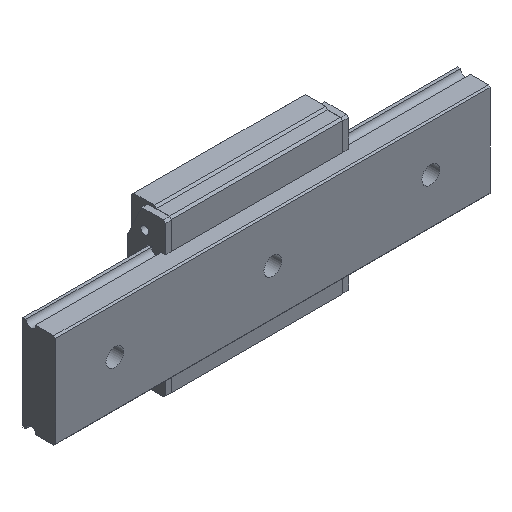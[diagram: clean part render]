
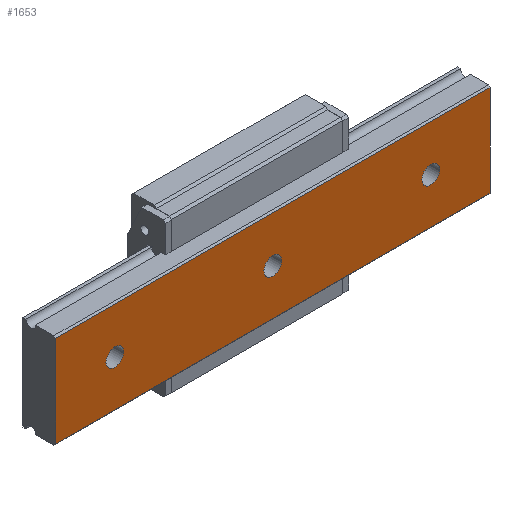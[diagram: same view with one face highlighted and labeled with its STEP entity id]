
A CAD part, isometric view. The second image highlights one B-rep face of the part: STEP entity #1653.
In plain terms, the highlighted planar face has unit normal (0, -1, 0).
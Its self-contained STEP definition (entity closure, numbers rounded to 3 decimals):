
#70=PLANE('',#1799);
#148=LINE('',#2491,#308);
#149=LINE('',#2499,#309);
#150=LINE('',#2501,#310);
#151=LINE('',#2503,#311);
#308=VECTOR('',#2001,1000.);
#309=VECTOR('',#2010,1000.);
#310=VECTOR('',#2011,1000.);
#311=VECTOR('',#2012,1000.);
#484=ORIENTED_EDGE('',*,*,#908,.F.);
#485=ORIENTED_EDGE('',*,*,#909,.F.);
#486=ORIENTED_EDGE('',*,*,#910,.F.);
#487=ORIENTED_EDGE('',*,*,#911,.T.);
#488=ORIENTED_EDGE('',*,*,#907,.F.);
#489=ORIENTED_EDGE('',*,*,#912,.F.);
#490=ORIENTED_EDGE('',*,*,#913,.T.);
#907=EDGE_CURVE('',#1115,#1114,#148,.T.);
#908=EDGE_CURVE('',#1116,#1116,#1266,.T.);
#909=EDGE_CURVE('',#1117,#1117,#1267,.T.);
#910=EDGE_CURVE('',#1118,#1118,#1268,.T.);
#911=EDGE_CURVE('',#1119,#1114,#149,.T.);
#912=EDGE_CURVE('',#1120,#1115,#150,.T.);
#913=EDGE_CURVE('',#1120,#1119,#151,.T.);
#1114=VERTEX_POINT('',#2488);
#1115=VERTEX_POINT('',#2490);
#1116=VERTEX_POINT('',#2494);
#1117=VERTEX_POINT('',#2496);
#1118=VERTEX_POINT('',#2498);
#1119=VERTEX_POINT('',#2500);
#1120=VERTEX_POINT('',#2502);
#1266=CIRCLE('',#1800,2.25);
#1267=CIRCLE('',#1801,2.25);
#1268=CIRCLE('',#1802,2.25);
#1327=EDGE_LOOP('',(#484));
#1328=EDGE_LOOP('',(#485));
#1329=EDGE_LOOP('',(#486));
#1330=EDGE_LOOP('',(#487,#488,#489,#490));
#1475=FACE_BOUND('',#1327,.T.);
#1476=FACE_BOUND('',#1328,.T.);
#1477=FACE_BOUND('',#1329,.T.);
#1478=FACE_BOUND('',#1330,.T.);
#1653=ADVANCED_FACE('',(#1475,#1476,#1477,#1478),#70,.F.);
#1799=AXIS2_PLACEMENT_3D('',#2492,#2002,#2003);
#1800=AXIS2_PLACEMENT_3D('',#2493,#2004,#2005);
#1801=AXIS2_PLACEMENT_3D('',#2495,#2006,#2007);
#1802=AXIS2_PLACEMENT_3D('',#2497,#2008,#2009);
#2001=DIRECTION('',(-1.,0.,0.));
#2002=DIRECTION('',(0.,1.,0.));
#2003=DIRECTION('',(0.,0.,1.));
#2004=DIRECTION('',(0.,-1.,0.));
#2005=DIRECTION('',(0.,0.,-1.));
#2006=DIRECTION('',(0.,-1.,0.));
#2007=DIRECTION('',(0.,0.,-1.));
#2008=DIRECTION('',(0.,-1.,0.));
#2009=DIRECTION('',(0.,0.,-1.));
#2010=DIRECTION('',(0.,0.,-1.));
#2011=DIRECTION('',(0.,0.,-1.));
#2012=DIRECTION('',(-1.,0.,0.));
#2488=CARTESIAN_POINT('',(0.,0.,-11.6));
#2490=CARTESIAN_POINT('',(110.,0.,-11.6));
#2491=CARTESIAN_POINT('',(110.,0.,-11.6));
#2492=CARTESIAN_POINT('',(110.,0.,11.6));
#2493=CARTESIAN_POINT('',(55.,0.,0.));
#2494=CARTESIAN_POINT('',(55.,0.,-2.25));
#2495=CARTESIAN_POINT('',(95.,0.,0.));
#2496=CARTESIAN_POINT('',(95.,0.,-2.25));
#2497=CARTESIAN_POINT('',(15.,0.,0.));
#2498=CARTESIAN_POINT('',(15.,0.,-2.25));
#2499=CARTESIAN_POINT('',(0.,0.,11.6));
#2500=CARTESIAN_POINT('',(0.,0.,11.6));
#2501=CARTESIAN_POINT('',(110.,0.,11.6));
#2502=CARTESIAN_POINT('',(110.,0.,11.6));
#2503=CARTESIAN_POINT('',(110.,0.,11.6));
